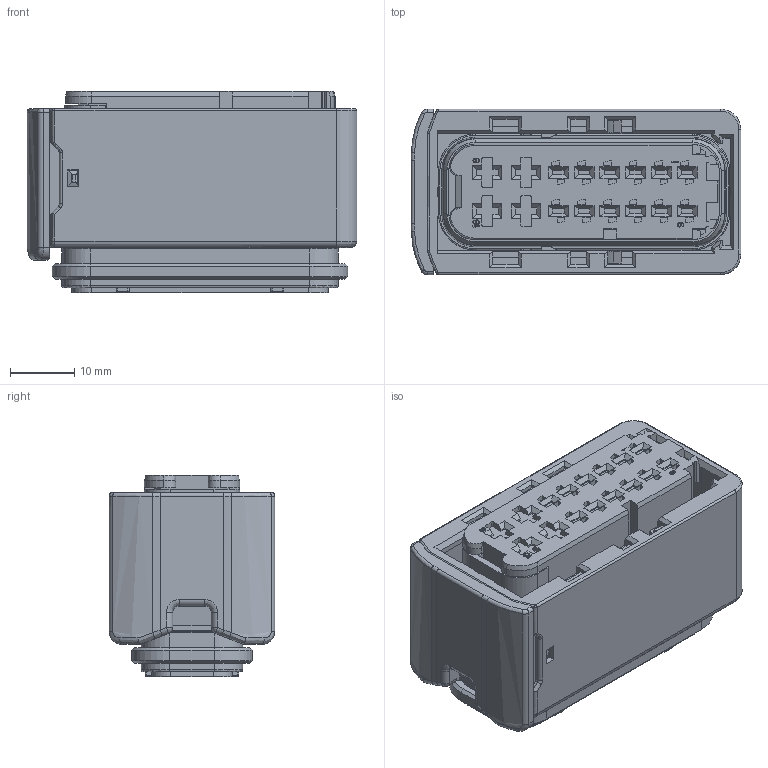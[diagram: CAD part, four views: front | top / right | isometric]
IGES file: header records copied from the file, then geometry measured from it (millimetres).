
Start section:  PTC IGES file: c-2-1564337-1-j-3d.igs
Global section: file name: c-2-1564337-1-j-3d.igs; native system: Pro/ENGINEER by Parametric Technology Corporation; preprocessor: 2010430; author: workeradm; organization: Unknown; units: millimetre
Bounding box: 51.2 x 25.7 x 31.25 mm (x, y, z)
Surface area: 21500.2 mm2 (no closed solid volume)
Topology: 0 solids, 0 shells, 1422 faces, 7506 edges, 7506 vertices
Faces by surface type: bspline 1029, revolution 393
